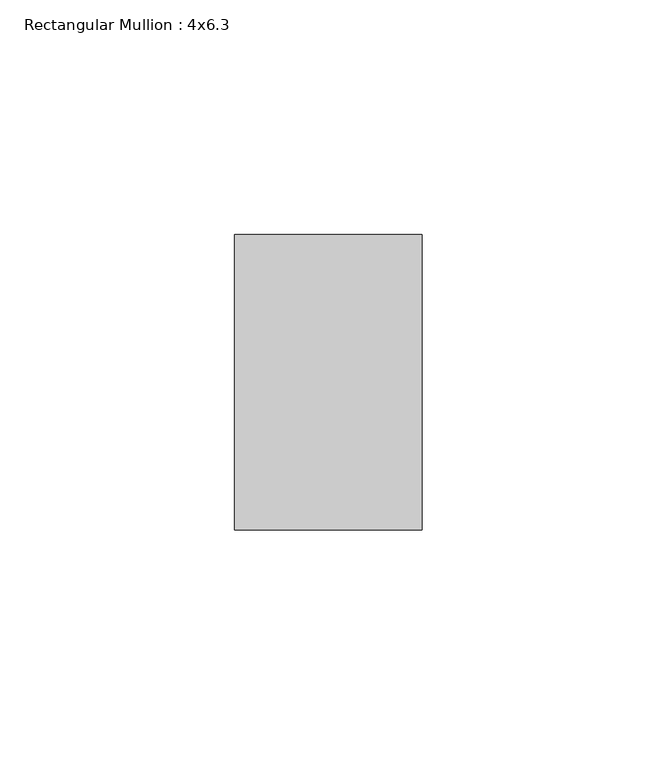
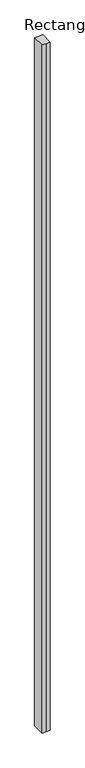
"""IFC4 building model written with IfcOpenShell, lengths in millimetres: member geometry, Rectangular Mullion : 4x6.3."""

from ifc_helpers import new_model, si_unit, frame, origin, place, context, project, spatial, polyline, outline, extrude, source, transform, mapped, element, save


def rectangular_mullion_4x6_3_91a0f863(model_context):
    return source(origin(), model_context, "Body", "SweptSolid", [
        extrude(outline(polyline([(-20.0, 20.0), (-20.0, 83.0), (20.0, 83.0), (20.0, 20.0), (0.0, 20.0), (-20.0, 20.0)])), frame((0.0, 0.0, -3574.9555723), z_axis=(0.0, 0.0, 1.0), x_axis=(1.0, 0.0, 0.0)), (0.0, 0.0, 1.0), 3574.9555723),
    ])


if __name__ == "__main__":
    model = new_model("IFC4")
    model_context = context("Model", 3, world=origin())
    ifc_project = project(units=[si_unit("LENGTHUNIT", "METRE", prefix="MILLI")], contexts=[model_context])
    site = spatial("IfcSite", under=ifc_project)
    building = spatial("IfcBuilding", under=site)
    placement = place(None, origin())
    rectangular_mullion_4x6_3_shape = rectangular_mullion_4x6_3_91a0f863(model_context)
    element("IfcMember", 1, ObjectType="Rectangular Mullion : 4x6.3", at=placement, inside=building, context=model_context, shape_type="MappedRepresentation", body=[
        mapped(rectangular_mullion_4x6_3_shape, transform((0.0, 0.0, 0.0), x_axis=(1.0, 0.0, 0.0), y_axis=(0.0, 1.0, 0.0), z_axis=(0.0, 0.0, 1.0))),
    ])
    save(model, "model.ifc")
